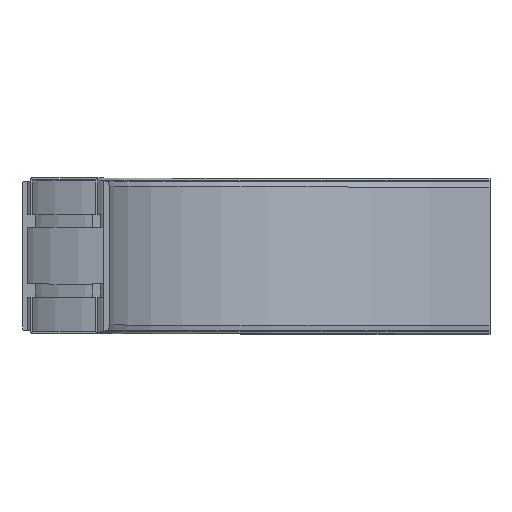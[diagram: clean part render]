
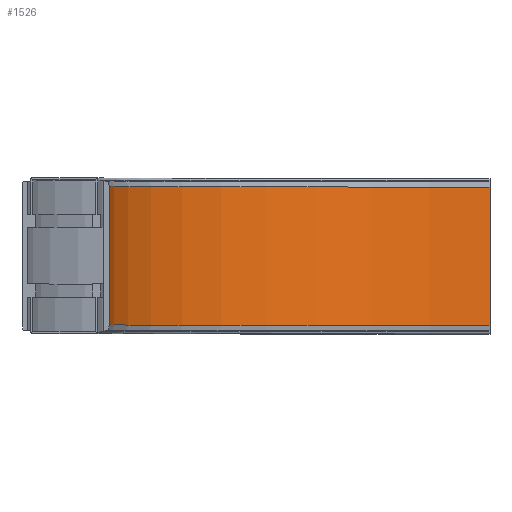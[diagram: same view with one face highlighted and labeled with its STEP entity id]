
A CAD part, top view. The second image highlights one B-rep face of the part: STEP entity #1526.
In plain terms, the highlighted cylindrical face has radius 357.5 mm (diameter 715 mm), a partial arc.
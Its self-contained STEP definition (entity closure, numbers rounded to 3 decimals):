
#80=CYLINDRICAL_SURFACE('',#1643,357.5);
#149=FACE_OUTER_BOUND('',#236,.T.);
#236=EDGE_LOOP('',(#1052,#1053,#1054,#1055));
#323=CIRCLE('',#1633,357.5);
#328=CIRCLE('',#1642,357.5);
#400=LINE('',#2215,#526);
#401=LINE('',#2216,#527);
#526=VECTOR('',#1808,10.);
#527=VECTOR('',#1809,10.);
#643=VERTEX_POINT('',#2183);
#644=VERTEX_POINT('',#2185);
#652=VERTEX_POINT('',#2209);
#653=VERTEX_POINT('',#2211);
#799=EDGE_CURVE('',#643,#644,#323,.T.);
#813=EDGE_CURVE('',#652,#653,#328,.T.);
#814=EDGE_CURVE('',#643,#652,#400,.T.);
#815=EDGE_CURVE('',#644,#653,#401,.T.);
#1052=ORIENTED_EDGE('',*,*,#814,.T.);
#1053=ORIENTED_EDGE('',*,*,#813,.T.);
#1054=ORIENTED_EDGE('',*,*,#815,.F.);
#1055=ORIENTED_EDGE('',*,*,#799,.F.);
#1526=ADVANCED_FACE('',(#149),#80,.F.);
#1633=AXIS2_PLACEMENT_3D('',#2186,#1777,#1778);
#1642=AXIS2_PLACEMENT_3D('',#2213,#1804,#1805);
#1643=AXIS2_PLACEMENT_3D('',#2214,#1806,#1807);
#1777=DIRECTION('center_axis',(0.,1.,0.));
#1778=DIRECTION('ref_axis',(0.,0.,-1.));
#1804=DIRECTION('center_axis',(0.,1.,0.));
#1805=DIRECTION('ref_axis',(0.,0.,-1.));
#1806=DIRECTION('center_axis',(0.,1.,0.));
#1807=DIRECTION('ref_axis',(0.,0.,-1.));
#1808=DIRECTION('',(0.,1.,0.));
#1809=DIRECTION('',(0.,1.,0.));
#2183=CARTESIAN_POINT('',(0.,-65.,42.5));
#2185=CARTESIAN_POINT('',(-357.5,-65.,400.));
#2186=CARTESIAN_POINT('Origin',(0.,-65.,
400.));
#2209=CARTESIAN_POINT('',(0.,65.,42.5));
#2211=CARTESIAN_POINT('',(-357.5,65.,400.));
#2213=CARTESIAN_POINT('Origin',(0.,65.,
400.));
#2214=CARTESIAN_POINT('Origin',(0.,0.,400.));
#2215=CARTESIAN_POINT('',(0.,-65.,42.5));
#2216=CARTESIAN_POINT('',(-357.5,-65.,400.));
